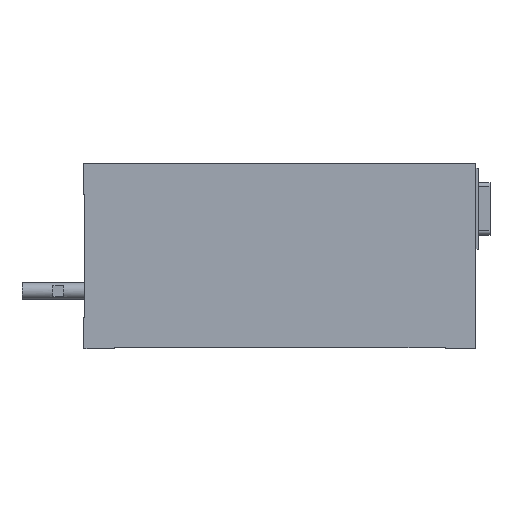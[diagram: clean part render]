
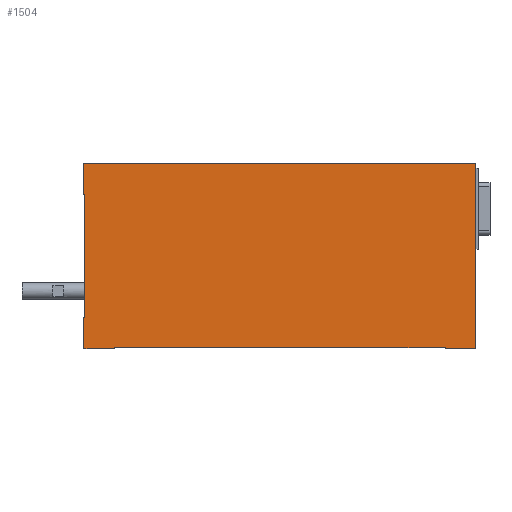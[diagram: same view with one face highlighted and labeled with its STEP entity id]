
A CAD part, top view. The second image highlights one B-rep face of the part: STEP entity #1504.
In plain terms, the highlighted planar face has unit normal (0, 0, 1).
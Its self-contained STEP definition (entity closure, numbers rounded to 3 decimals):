
#1401=CARTESIAN_POINT('',(-0.086,-4.982,19.8));
#1402=DIRECTION('',(0.0,0.0,1.0));
#1403=DIRECTION('',(1.0,0.0,0.0));
#1404=AXIS2_PLACEMENT_3D('',#1401,#1402,#1403);
#1405=PLANE('',#1404);
#1406=CARTESIAN_POINT('',(-65.0,-32.5,19.8));
#1407=VERTEX_POINT('',#1406);
#1408=CARTESIAN_POINT('',(-64.5,-32.5,19.8));
#1409=VERTEX_POINT('',#1408);
#1410=CARTESIAN_POINT('',(-65.0,-32.5,19.8));
#1411=DIRECTION('',(1.0,0.0,0.0));
#1412=VECTOR('',#1411,0.5);
#1413=LINE('',#1410,#1412);
#1414=EDGE_CURVE('',#1407,#1409,#1413,.T.);
#1415=ORIENTED_EDGE('',*,*,#1414,.F.);
#1416=CARTESIAN_POINT('',(-65.0,-47.5,19.8));
#1417=VERTEX_POINT('',#1416);
#1418=CARTESIAN_POINT('',(-65.0,-47.5,19.8));
#1419=DIRECTION('',(0.0,1.0,0.0));
#1420=VECTOR('',#1419,15.0);
#1421=LINE('',#1418,#1420);
#1422=EDGE_CURVE('',#1417,#1407,#1421,.T.);
#1423=ORIENTED_EDGE('',*,*,#1422,.F.);
#1424=CARTESIAN_POINT('',(-50.0,-47.5,19.8));
#1425=VERTEX_POINT('',#1424);
#1426=CARTESIAN_POINT('',(-50.0,-47.5,19.8));
#1427=DIRECTION('',(-1.0,0.0,0.0));
#1428=VECTOR('',#1427,15.0);
#1429=LINE('',#1426,#1428);
#1430=EDGE_CURVE('',#1425,#1417,#1429,.T.);
#1431=ORIENTED_EDGE('',*,*,#1430,.F.);
#1432=CARTESIAN_POINT('',(-50.0,-47.,19.8));
#1433=VERTEX_POINT('',#1432);
#1434=CARTESIAN_POINT('',(-50.0,-47.,19.8));
#1435=DIRECTION('',(0.0,-1.0,0.0));
#1436=VECTOR('',#1435,0.5);
#1437=LINE('',#1434,#1436);
#1438=EDGE_CURVE('',#1433,#1425,#1437,.T.);
#1439=ORIENTED_EDGE('',*,*,#1438,.F.);
#1440=CARTESIAN_POINT('',(110.,-47.,19.8));
#1441=VERTEX_POINT('',#1440);
#1442=CARTESIAN_POINT('',(110.,-47.,19.8));
#1443=DIRECTION('',(-1.0,0.0,0.0));
#1444=VECTOR('',#1443,160.);
#1445=LINE('',#1442,#1444);
#1446=EDGE_CURVE('',#1441,#1433,#1445,.T.);
#1447=ORIENTED_EDGE('',*,*,#1446,.F.);
#1448=CARTESIAN_POINT('',(110.,-47.5,19.8));
#1449=VERTEX_POINT('',#1448);
#1450=CARTESIAN_POINT('',(110.,-47.5,19.8));
#1451=DIRECTION('',(0.0,1.0,0.0));
#1452=VECTOR('',#1451,0.5);
#1453=LINE('',#1450,#1452);
#1454=EDGE_CURVE('',#1449,#1441,#1453,.T.);
#1455=ORIENTED_EDGE('',*,*,#1454,.F.);
#1456=CARTESIAN_POINT('',(125.,-47.5,19.8));
#1457=VERTEX_POINT('',#1456);
#1458=CARTESIAN_POINT('',(125.,-47.5,19.8));
#1459=DIRECTION('',(-1.0,0.0,0.0));
#1460=VECTOR('',#1459,15.0);
#1461=LINE('',#1458,#1460);
#1462=EDGE_CURVE('',#1457,#1449,#1461,.T.);
#1463=ORIENTED_EDGE('',*,*,#1462,.F.);
#1464=CARTESIAN_POINT('',(125.,42.5,19.8));
#1465=VERTEX_POINT('',#1464);
#1466=CARTESIAN_POINT('',(125.,42.5,19.8));
#1467=DIRECTION('',(0.0,-1.0,0.0));
#1468=VECTOR('',#1467,90.);
#1469=LINE('',#1466,#1468);
#1470=EDGE_CURVE('',#1465,#1457,#1469,.T.);
#1471=ORIENTED_EDGE('',*,*,#1470,.F.);
#1472=CARTESIAN_POINT('',(-65.,42.5,19.8));
#1473=VERTEX_POINT('',#1472);
#1474=CARTESIAN_POINT('',(-65.,42.5,19.8));
#1475=DIRECTION('',(1.0,0.0,0.0));
#1476=VECTOR('',#1475,190.0);
#1477=LINE('',#1474,#1476);
#1478=EDGE_CURVE('',#1473,#1465,#1477,.T.);
#1479=ORIENTED_EDGE('',*,*,#1478,.F.);
#1480=CARTESIAN_POINT('',(-65.,27.5,19.8));
#1481=VERTEX_POINT('',#1480);
#1482=CARTESIAN_POINT('',(-65.,27.5,19.8));
#1483=DIRECTION('',(0.0,1.0,0.0));
#1484=VECTOR('',#1483,15.);
#1485=LINE('',#1482,#1484);
#1486=EDGE_CURVE('',#1481,#1473,#1485,.T.);
#1487=ORIENTED_EDGE('',*,*,#1486,.F.);
#1488=CARTESIAN_POINT('',(-64.5,27.5,19.8));
#1489=VERTEX_POINT('',#1488);
#1490=CARTESIAN_POINT('',(-64.5,27.5,19.8));
#1491=DIRECTION('',(-1.0,0.0,0.0));
#1492=VECTOR('',#1491,0.5);
#1493=LINE('',#1490,#1492);
#1494=EDGE_CURVE('',#1489,#1481,#1493,.T.);
#1495=ORIENTED_EDGE('',*,*,#1494,.F.);
#1496=CARTESIAN_POINT('',(-64.5,-32.5,19.8));
#1497=DIRECTION('',(0.0,1.0,0.0));
#1498=VECTOR('',#1497,60.0);
#1499=LINE('',#1496,#1498);
#1500=EDGE_CURVE('',#1409,#1489,#1499,.T.);
#1501=ORIENTED_EDGE('',*,*,#1500,.F.);
#1502=EDGE_LOOP('',(#1415,#1423,#1431,#1439,#1447,#1455,#1463,#1471,#1479,#1487,#1495,#1501));
#1503=FACE_OUTER_BOUND('',#1502,.T.);
#1504=ADVANCED_FACE('',(#1503),#1405,.T.);
